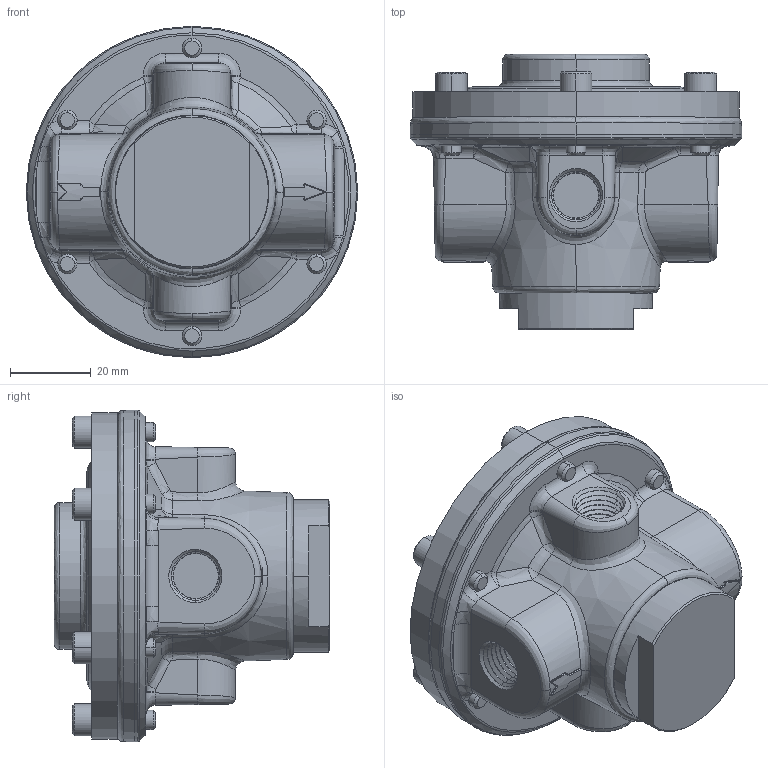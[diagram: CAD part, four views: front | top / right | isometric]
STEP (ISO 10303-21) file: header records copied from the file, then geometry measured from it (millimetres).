
FILE_DESCRIPTION (( 'STEP AP203' ), '1' );
FILE_NAME ('4GDR-2BSPT-PO.STEP', '2013-03-14T15:14:10', ( '' ), ( '' ), 'SwSTEP 2.0', 'SolidWorks 2011', '' );
FILE_SCHEMA (( 'CONFIG_CONTROL_DESIGN' ));
Length unit declared in the file: inch
Products named in the file (2): Part2^4GDR-250B-PO; 4GDR-2BSPT-PO
Assembly tree (1 placements, depth 2):
  4GDR-2BSPT-PO
    Part2^4GDR-250B-PO
Bounding box: 82.3 x 68.38 x 82.3 mm (x, y, z)
Volume: 167910.5 mm3; surface area: 27539.3 mm2
Topology: 1 solids, 1 shells, 707 faces, 1682 edges, 986 vertices
Faces by surface type: cone 311, bspline 165, plane 121, cylinder 110
Entity records: 26644 total; most frequent: CARTESIAN_POINT 10966, ORIENTED_EDGE 3340, DIRECTION 3215, EDGE_CURVE 1670, AXIS2_PLACEMENT_3D 1299, VERTEX_POINT 986, CIRCLE 753, EDGE_LOOP 728
